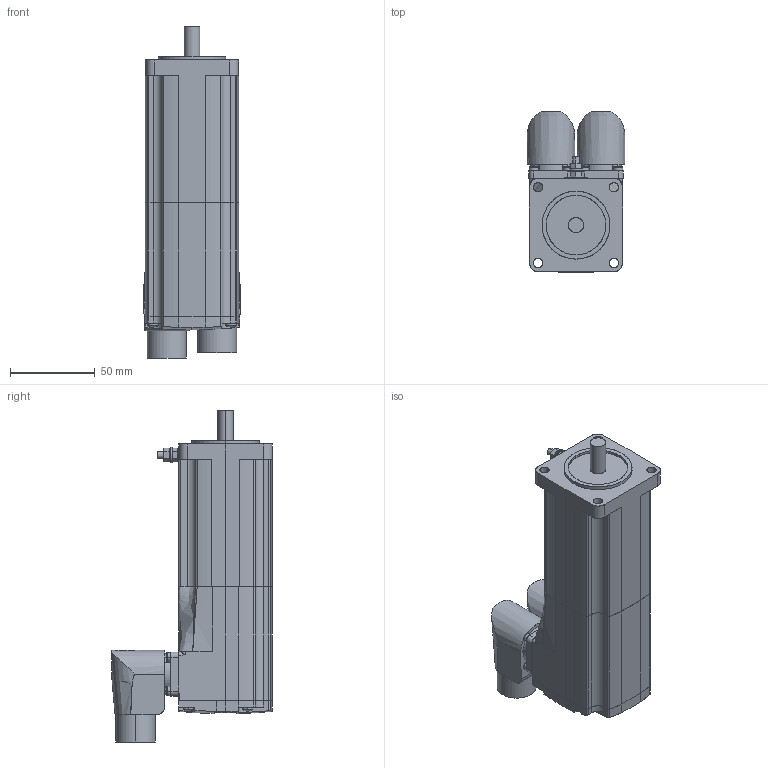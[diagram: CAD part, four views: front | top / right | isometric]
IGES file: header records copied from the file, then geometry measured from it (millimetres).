
Start section: SolidWorks IGES file using analytic representation for surfaces
Global section: file name: C:\PDM\SW-SAP\AA-IGES\SH30551x0xF2100.IGS; native system: SolidWorks 2010; preprocessor: SolidWorks 2010; author: SESA21951; date: 131129.081054; units: millimetre
Bounding box: 57.5 x 94.5 x 195.45 mm (x, y, z)
Surface area: 67768.3 mm2 (no closed solid volume)
Topology: 0 solids, 0 shells, 400 faces, 6040 edges, 6038 vertices
Faces by surface type: revolution 202, bspline 198
